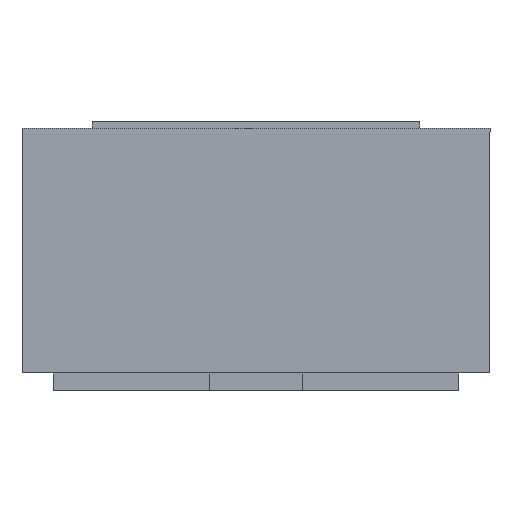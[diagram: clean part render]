
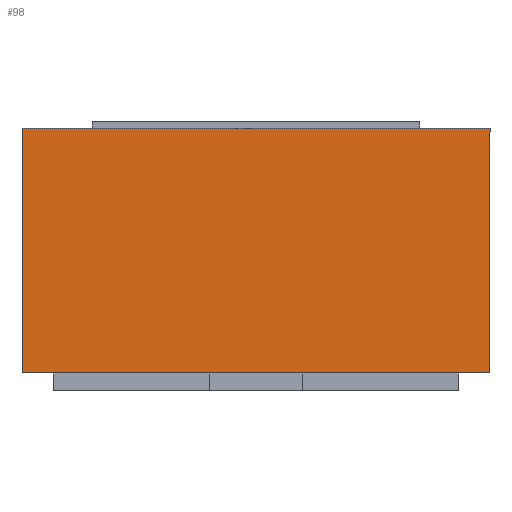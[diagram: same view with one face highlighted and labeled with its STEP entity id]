
A CAD part, front view. The second image highlights one B-rep face of the part: STEP entity #98.
In plain terms, the highlighted planar face has unit normal (0, -1, 0).
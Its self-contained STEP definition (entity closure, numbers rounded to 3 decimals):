
#98=ADVANCED_FACE('',(#152),#153,.T.);
#152=FACE_OUTER_BOUND('',#208,.T.);
#153=PLANE('',#209);
#208=EDGE_LOOP('',(#391,#392,#393,#394));
#209=AXIS2_PLACEMENT_3D('',#395,#396,#397);
#391=ORIENTED_EDGE('',*,*,#469,.T.);
#392=ORIENTED_EDGE('',*,*,#467,.T.);
#393=ORIENTED_EDGE('',*,*,#470,.F.);
#394=ORIENTED_EDGE('',*,*,#426,.F.);
#395=CARTESIAN_POINT('',(0.75,-1.175,-0.425));
#396=DIRECTION('',(0.,-1.0,-0.0));
#397=DIRECTION('',(0.0,0.0,-1.0));
#426=EDGE_CURVE('',#495,#497,#498,.T.);
#467=EDGE_CURVE('',#561,#565,#567,.T.);
#469=EDGE_CURVE('',#495,#561,#569,.T.);
#470=EDGE_CURVE('',#497,#565,#570,.T.);
#495=VERTEX_POINT('',#608);
#497=VERTEX_POINT('',#611);
#498=LINE('',#612,#613);
#561=VERTEX_POINT('',#713);
#565=VERTEX_POINT('',#719);
#567=LINE('',#722,#723);
#569=LINE('',#726,#727);
#570=LINE('',#728,#729);
#608=CARTESIAN_POINT('',(0.75,-1.175,-0.805));
#611=CARTESIAN_POINT('',(-0.75,-1.175,-0.805));
#612=CARTESIAN_POINT('',(0.75,-1.175,-0.805));
#613=VECTOR('',#746,1.5);
#713=CARTESIAN_POINT('',(0.75,-1.175,-0.02));
#719=CARTESIAN_POINT('',(-0.75,-1.175,-0.02));
#722=CARTESIAN_POINT('',(0.75,-1.175,-0.02));
#723=VECTOR('',#787,1.5);
#726=CARTESIAN_POINT('',(0.75,-1.175,-0.22));
#727=VECTOR('',#789,0.2);
#728=CARTESIAN_POINT('',(-0.75,-1.175,-0.425));
#729=VECTOR('',#790,0.055);
#746=DIRECTION('',(-1.0,0.0,0.0));
#787=DIRECTION('',(-1.0,0.,0.0));
#789=DIRECTION('',(0.0,0.0,1.0));
#790=DIRECTION('',(0.0,0.0,1.0));
